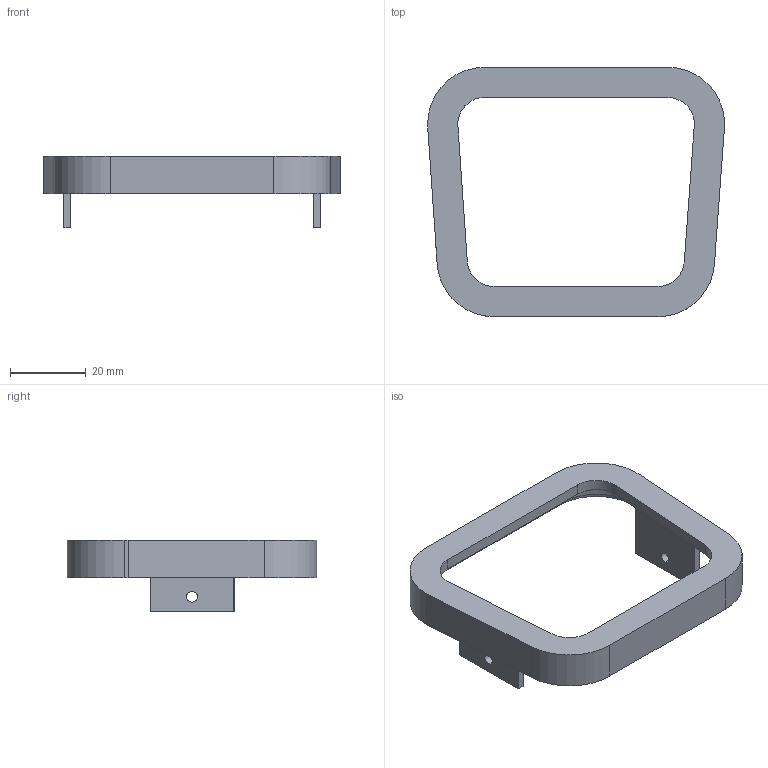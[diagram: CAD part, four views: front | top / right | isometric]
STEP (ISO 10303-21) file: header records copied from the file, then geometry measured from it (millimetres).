
FILE_DESCRIPTION (( 'STEP AP203' ), '1' );
FILE_NAME ('on kapak.STEP', '2016-11-03T14:10:35', ( '' ), ( '' ), 'SwSTEP 2.0', 'SolidWorks 2015', '' );
FILE_SCHEMA (( 'CONFIG_CONTROL_DESIGN' ));
Length unit declared in the file: millimetre
Products named in the file (1): on kapak
Bounding box: 78.56 x 66 x 19 mm (x, y, z)
Volume: 11261.3 mm3; surface area: 10139.6 mm2
Topology: 1 solids, 1 shells, 54 faces, 144 edges, 96 vertices
Faces by surface type: plane 30, cylinder 19, cone 5
Entity records: 1788 total; most frequent: CARTESIAN_POINT 304, DIRECTION 299, ORIENTED_EDGE 288, EDGE_CURVE 144, AXIS2_PLACEMENT_3D 103, VERTEX_POINT 96, LINE 93, VECTOR 93
